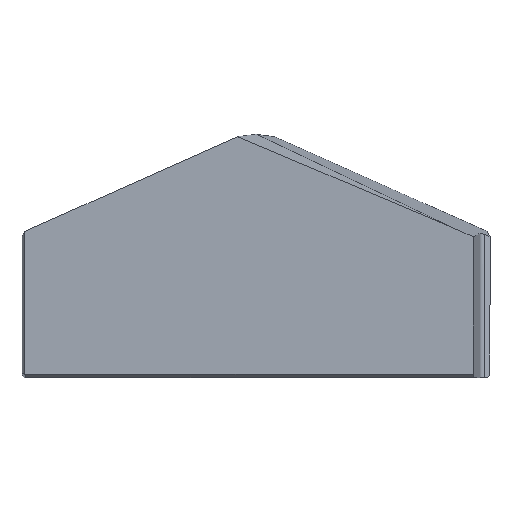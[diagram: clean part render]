
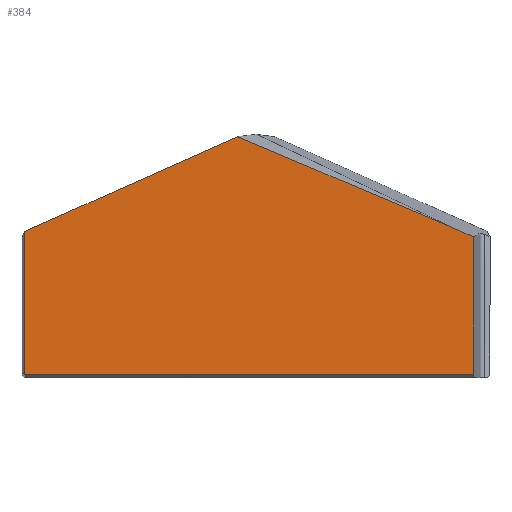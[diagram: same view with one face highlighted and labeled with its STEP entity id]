
A CAD part, top view. The second image highlights one B-rep face of the part: STEP entity #384.
In plain terms, the highlighted planar face has unit normal (0, 0, 1).
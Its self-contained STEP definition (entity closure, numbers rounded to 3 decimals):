
#15 = B_SPLINE_CURVE_WITH_KNOTS ( 'NONE', 3,
 ( #609, #510, #115, #163 ),
 .UNSPECIFIED., .F., .F.,
 ( 4, 4 ),
 ( 0., 0. ),
 .UNSPECIFIED. ) ;
#19 = DIRECTION ( 'NONE',  ( 1., 0., 0. ) ) ;
#40 = VERTEX_POINT ( 'NONE', #632 ) ;
#43 = CARTESIAN_POINT ( 'NONE',  ( 7.082, 16.742, 6.4 ) ) ;
#52 = CARTESIAN_POINT ( 'NONE',  ( -19.585, 12.37, 6.4 ) ) ;
#53 = EDGE_CURVE ( 'NONE', #129, #310, #499, .T. ) ;
#58 = VERTEX_POINT ( 'NONE', #289 ) ;
#71 = ORIENTED_EDGE ( 'NONE', *, *, #484, .T. ) ;
#81 = CARTESIAN_POINT ( 'NONE',  ( -19.585, 0., 6.4 ) ) ;
#109 = ORIENTED_EDGE ( 'NONE', *, *, #53, .T. ) ;
#113 = CARTESIAN_POINT ( 'NONE',  ( 0., 0., 6.4 ) ) ;
#115 = CARTESIAN_POINT ( 'NONE',  ( -19.581, 0.292, 6.4 ) ) ;
#116 = ORIENTED_EDGE ( 'NONE', *, *, #248, .T. ) ;
#127 = VECTOR ( 'NONE', #592, 1000. ) ;
#129 = VERTEX_POINT ( 'NONE', #140 ) ;
#140 = CARTESIAN_POINT ( 'NONE',  ( 16.559, 12.733, 6.4 ) ) ;
#152 = VECTOR ( 'NONE', #459, 1000. ) ;
#153 = ORIENTED_EDGE ( 'NONE', *, *, #196, .T. ) ;
#163 = CARTESIAN_POINT ( 'NONE',  ( -19.579, 0.289, 6.4 ) ) ;
#164 = AXIS2_PLACEMENT_3D ( 'NONE', #113, #561, #19 ) ;
#167 = PLANE ( 'NONE',  #164 ) ;
#183 = EDGE_CURVE ( 'NONE', #58, #247, #523, .T. ) ;
#196 = EDGE_CURVE ( 'NONE', #446, #129, #343, .T. ) ;
#199 = VECTOR ( 'NONE', #522, 1000. ) ;
#209 = DIRECTION ( 'NONE',  ( 0., 1., 0. ) ) ;
#214 = CARTESIAN_POINT ( 'NONE',  ( 18.395, 0.289, 6.4 ) ) ;
#219 = VERTEX_POINT ( 'NONE', #52 ) ;
#223 = VECTOR ( 'NONE', #491, 1000. ) ;
#241 = CARTESIAN_POINT ( 'NONE',  ( 19.41, 0.289, 6.4 ) ) ;
#247 = VERTEX_POINT ( 'NONE', #214 ) ;
#248 = EDGE_CURVE ( 'NONE', #247, #446, #333, .T. ) ;
#280 = VECTOR ( 'NONE', #377, 1000. ) ;
#289 = CARTESIAN_POINT ( 'NONE',  ( -19.579, 0.289, 6.4 ) ) ;
#298 = EDGE_LOOP ( 'NONE', ( #153, #109, #532, #412, #71, #517, #116 ) ) ;
#309 = FACE_OUTER_BOUND ( 'NONE', #298, .T. ) ;
#310 = VERTEX_POINT ( 'NONE', #449 ) ;
#333 = LINE ( 'NONE', #554, #596 ) ;
#343 = LINE ( 'NONE', #392, #223 ) ;
#359 = CARTESIAN_POINT ( 'NONE',  ( 0., 21.09, 6.4 ) ) ;
#377 = DIRECTION ( 'NONE',  ( 0., 1., 0. ) ) ;
#384 = ADVANCED_FACE ( 'NONE', ( #309 ), #167, .T. ) ;
#392 = CARTESIAN_POINT ( 'NONE',  ( 7.471, 16.779, 6.4 ) ) ;
#412 = ORIENTED_EDGE ( 'NONE', *, *, #555, .F. ) ;
#416 = LINE ( 'NONE', #81, #280 ) ;
#443 = EDGE_CURVE ( 'NONE', #310, #219, #452, .T. ) ;
#446 = VERTEX_POINT ( 'NONE', #608 ) ;
#449 = CARTESIAN_POINT ( 'NONE',  ( -1.558, 20.396, 6.4 ) ) ;
#452 = LINE ( 'NONE', #359, #152 ) ;
#459 = DIRECTION ( 'NONE',  ( -0.914, -0.407, 0. ) ) ;
#484 = EDGE_CURVE ( 'NONE', #40, #58, #15, .T. ) ;
#491 = DIRECTION ( 'NONE',  ( -0.914, 0.407, 0. ) ) ;
#499 = LINE ( 'NONE', #43, #199 ) ;
#510 = CARTESIAN_POINT ( 'NONE',  ( -19.583, 0.296, 6.4 ) ) ;
#517 = ORIENTED_EDGE ( 'NONE', *, *, #183, .T. ) ;
#522 = DIRECTION ( 'NONE',  ( -0.921, 0.39, 0. ) ) ;
#523 = LINE ( 'NONE', #241, #127 ) ;
#532 = ORIENTED_EDGE ( 'NONE', *, *, #443, .T. ) ;
#554 = CARTESIAN_POINT ( 'NONE',  ( 18.395, 0., 6.4 ) ) ;
#555 = EDGE_CURVE ( 'NONE', #40, #219, #416, .T. ) ;
#561 = DIRECTION ( 'NONE',  ( 0., 0., 1. ) ) ;
#592 = DIRECTION ( 'NONE',  ( 1., 0., 0. ) ) ;
#596 = VECTOR ( 'NONE', #209, 1000. ) ;
#608 = CARTESIAN_POINT ( 'NONE',  ( 18.395, 11.915, 6.4 ) ) ;
#609 = CARTESIAN_POINT ( 'NONE',  ( -19.585, 0.3, 6.4 ) ) ;
#632 = CARTESIAN_POINT ( 'NONE',  ( -19.585, 0.3, 6.4 ) ) ;
